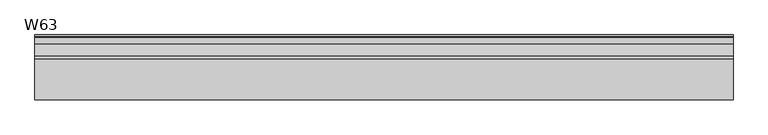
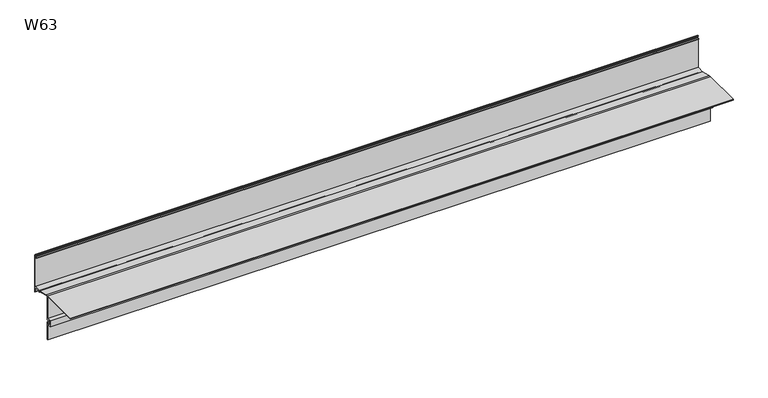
"""IFC4 building model written with IfcOpenShell, lengths in millimetres: proxy geometry, W63 Profil okapowy prosty : W63."""

from ifc_helpers import new_model, si_unit, point, frame, frame_2d, origin, place, context, project, spatial, polyline, circle_curve, trimmed, segment, composite_curve, outline, extrude, source, transform, mapped, element, save


def w63_e9272406(model_context):
    return source(origin(), model_context, "Body", "SweptSolid", [
        extrude(outline(composite_curve([segment(polyline([(12.814071, -0.610591), (36.5, -6.6014734), (52.2, -6.6014734), (52.2, 55.7983042), (49.5, 55.7983042), (49.5, 57.2983042), (52.5, 57.2983042), (52.5, 60.2083042)]), True, "CONTINUOUS"), segment(trimmed(circle_curve(frame_2d((51.5, 60.2083042)), 1.0), [point((52.5, 60.2083042))], [point((51.5, 61.2083042))], True, "CARTESIAN"), True, "CONTINUOUS"), segment(polyline([(51.5, 61.2083042), (51.5, 63.0441043)]), True, "CONTINUOUS"), segment(trimmed(circle_curve(frame_2d((51.0901385, 60.1628945)), 2.9102158), [point((51.5, 63.0441043))], [point((54.0, 60.2083042))], False, "CARTESIAN"), True, "CONTINUOUS"), segment(polyline([(54.0, 60.2083042), (54.0, -19.8427552), (52.5, -18.605576), (52.5, -8.4014734), (38.5, -8.4014734), (38.5, -10.7671837), (37.3, -9.6220163), (37.3, -8.4014734), (35.8680749, -8.4014734), (10.4, -1.9598328), (10.4, -53.5), (8.2, -53.5), (8.2, -51.1), (1.7, -51.1), (1.7, -60.9), (8.2, -60.9), (8.2, -58.5), (10.4, -58.5), (10.4, -96.8), (8.7, -96.8), (8.7, -62.7), (0.0, -62.7), (0.0, -49.3), (8.6, -49.3), (8.6, -1.8), (-72.7447545, -1.8), (-72.7447545, 0.0), (7.9099076, 0.0)]), True, "CONTINUOUS"), segment(trimmed(circle_curve(frame_2d((7.9099076, -20.0)), 20.0), [point((7.9099076, 0.0))], [point((12.814071, -0.610591))], False, "CARTESIAN"), True, "CONTINUOUS")], self_intersect=False)), frame((0.0, 0.0, 0.0), z_axis=(1.0, 0.0, 0.0), x_axis=(0.0, 1.0, 0.0)), (0.0, 0.0, 1.0), 1363.0),
    ])


if __name__ == "__main__":
    model = new_model("IFC4")
    model_context = context("Model", 3, world=origin())
    ifc_project = project(units=[si_unit("LENGTHUNIT", "METRE", prefix="MILLI")], contexts=[model_context])
    site = spatial("IfcSite", under=ifc_project)
    building = spatial("IfcBuilding", under=site)
    placement = place(None, origin())
    w63_shape = w63_e9272406(model_context)
    element("IfcBuildingElementProxy", 1, Name="W63 Profil okapowy prosty : W63", ObjectType="W63 Profil okapowy prosty : W63", at=placement, inside=building, context=model_context, shape_type="MappedRepresentation", body=[
        mapped(w63_shape, transform((0.0, 0.0, 0.0), x_axis=(1.0, 0.0, 0.0), y_axis=(0.0, 1.0, 0.0), z_axis=(0.0, 0.0, 1.0))),
    ])
    save(model, "model.ifc")
